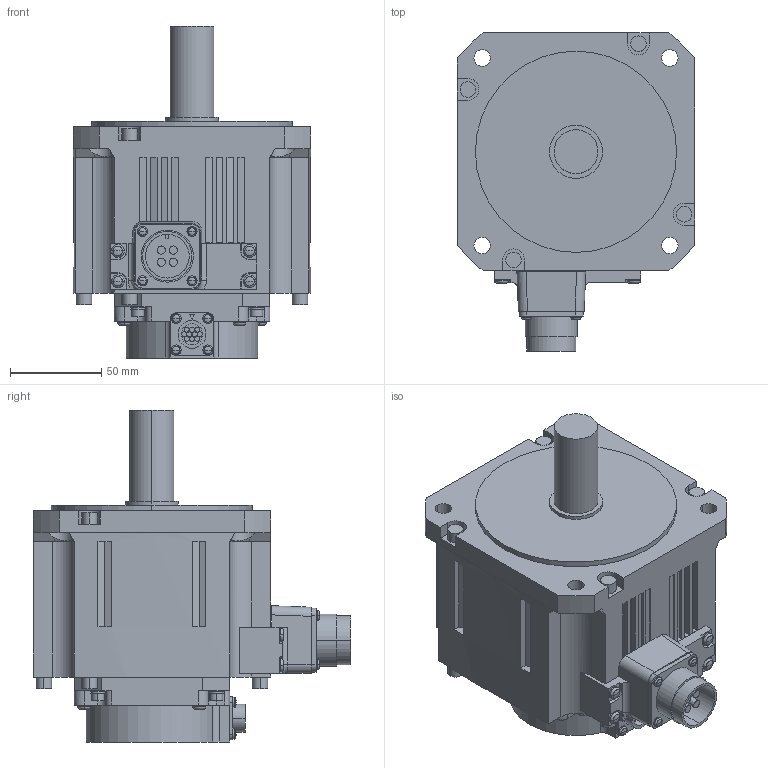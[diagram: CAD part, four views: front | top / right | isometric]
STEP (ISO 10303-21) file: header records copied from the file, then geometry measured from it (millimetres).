
FILE_DESCRIPTION((''),'2;1');
FILE_NAME('HK-ST102W_','2019-01-17T',('XE90682'),(''),'CREO PARAMETRIC BY PTC INC, 2016380','CREO PARAMETRIC BY PTC INC, 2016380','');
FILE_SCHEMA(('CONFIG_CONTROL_DESIGN'));
Length unit declared in the file: millimetre
Products named in the file (1): HK-ST102W_
Bounding box: 130 x 173.8 x 181.5 mm (x, y, z)
Volume: 1646993 mm3; surface area: 112254 mm2
Topology: 1 solids, 1 shells, 507 faces, 1241 edges, 782 vertices
Faces by surface type: plane 250, cylinder 183, torus 32, sphere 32, cone 8, bspline 2
Entity records: 15507 total; most frequent: CARTESIAN_POINT 3280, DIRECTION 2679, ORIENTED_EDGE 2418, EDGE_CURVE 1209, AXIS2_PLACEMENT_3D 993, VERTEX_POINT 782, VECTOR 693, LINE 693
